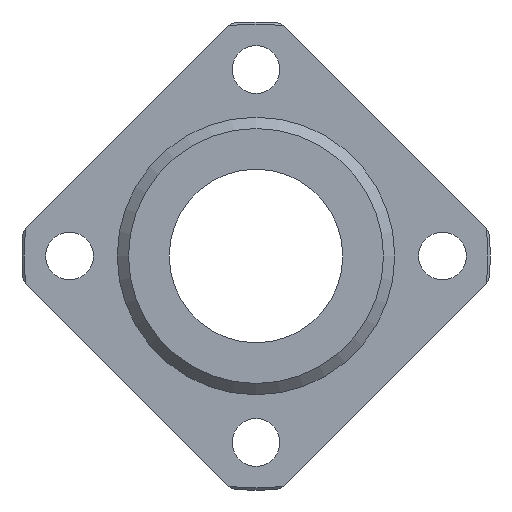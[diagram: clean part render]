
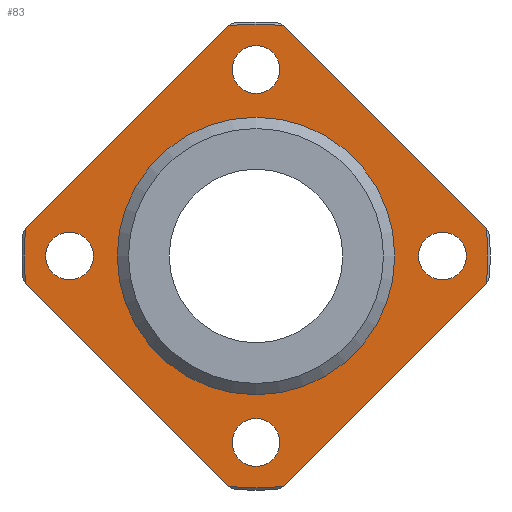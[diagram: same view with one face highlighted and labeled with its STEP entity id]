
A CAD part, left-side view. The second image highlights one B-rep face of the part: STEP entity #83.
In plain terms, the highlighted planar face has unit normal (-1, 0, 0).
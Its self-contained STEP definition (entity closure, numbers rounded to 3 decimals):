
#83=ADVANCED_FACE('',(#131,#132,#133,#134,#135,#136),#137,.F.);
#131=FACE_BOUND('',#234,.T.);
#132=FACE_BOUND('',#235,.T.);
#133=FACE_BOUND('',#236,.T.);
#134=FACE_BOUND('',#237,.T.);
#135=FACE_BOUND('',#238,.T.);
#136=FACE_OUTER_BOUND('',#239,.T.);
#137=PLANE('',#240);
#234=EDGE_LOOP('',(#383));
#235=EDGE_LOOP('',(#384));
#236=EDGE_LOOP('',(#385));
#237=EDGE_LOOP('',(#386));
#238=EDGE_LOOP('',(#387));
#239=EDGE_LOOP('',(#388,#389,#390,#391,#392,#393,#394,#395));
#240=AXIS2_PLACEMENT_3D('',#396,#397,#398);
#383=ORIENTED_EDGE('',*,*,#609,.T.);
#384=ORIENTED_EDGE('',*,*,#610,.T.);
#385=ORIENTED_EDGE('',*,*,#608,.T.);
#386=ORIENTED_EDGE('',*,*,#611,.T.);
#387=ORIENTED_EDGE('',*,*,#612,.T.);
#388=ORIENTED_EDGE('',*,*,#613,.T.);
#389=ORIENTED_EDGE('',*,*,#614,.T.);
#390=ORIENTED_EDGE('',*,*,#615,.T.);
#391=ORIENTED_EDGE('',*,*,#587,.T.);
#392=ORIENTED_EDGE('',*,*,#616,.T.);
#393=ORIENTED_EDGE('',*,*,#595,.T.);
#394=ORIENTED_EDGE('',*,*,#617,.T.);
#395=ORIENTED_EDGE('',*,*,#576,.T.);
#396=CARTESIAN_POINT('',(-11.0,26.746,0.0));
#397=DIRECTION('',(1.0,0.0,0.0));
#398=DIRECTION('',(0.0,0.0,-1.0));
#576=EDGE_CURVE('',#651,#649,#652,.T.);
#587=EDGE_CURVE('',#672,#670,#673,.T.);
#595=EDGE_CURVE('',#688,#686,#689,.T.);
#608=EDGE_CURVE('',#710,#710,#711,.T.);
#609=EDGE_CURVE('',#712,#712,#713,.T.);
#610=EDGE_CURVE('',#714,#714,#715,.T.);
#611=EDGE_CURVE('',#716,#716,#717,.T.);
#612=EDGE_CURVE('',#718,#718,#719,.T.);
#613=EDGE_CURVE('',#649,#720,#721,.T.);
#614=EDGE_CURVE('',#720,#722,#723,.T.);
#615=EDGE_CURVE('',#722,#672,#724,.T.);
#616=EDGE_CURVE('',#670,#688,#725,.T.);
#617=EDGE_CURVE('',#686,#651,#726,.T.);
#649=VERTEX_POINT('',#778);
#651=VERTEX_POINT('',#783);
#652=LINE('',#784,#785);
#670=VERTEX_POINT('',#818);
#672=VERTEX_POINT('',#823);
#673=LINE('',#824,#825);
#686=VERTEX_POINT('',#850);
#688=VERTEX_POINT('',#855);
#689=LINE('',#856,#857);
#710=VERTEX_POINT('',#892);
#711=CIRCLE('',#893,2.75);
#712=VERTEX_POINT('',#894);
#713=CIRCLE('',#895,16.0);
#714=VERTEX_POINT('',#896);
#715=CIRCLE('',#897,2.75);
#716=VERTEX_POINT('',#898);
#717=CIRCLE('',#899,2.75);
#718=VERTEX_POINT('',#900);
#719=CIRCLE('',#901,2.75);
#720=VERTEX_POINT('',#902);
#721=CIRCLE('',#903,26.746);
#722=VERTEX_POINT('',#904);
#723=LINE('',#905,#906);
#724=CIRCLE('',#907,26.746);
#725=CIRCLE('',#908,26.746);
#726=CIRCLE('',#909,26.746);
#778=CARTESIAN_POINT('',(-11.0,-3.137,26.561));
#783=CARTESIAN_POINT('',(-11.0,-26.561,3.137));
#784=CARTESIAN_POINT('',(-11.0,-1.476,28.222));
#785=VECTOR('',#967,1.0);
#818=CARTESIAN_POINT('',(-11.0,3.137,-26.561));
#823=CARTESIAN_POINT('',(-11.0,26.561,-3.137));
#824=CARTESIAN_POINT('',(-11.0,28.222,-1.476));
#825=VECTOR('',#977,1.0);
#850=CARTESIAN_POINT('',(-11.0,-26.561,-3.137));
#855=CARTESIAN_POINT('',(-11.0,-3.137,-26.561));
#856=CARTESIAN_POINT('',(-11.0,-1.476,-28.222));
#857=VECTOR('',#981,1.0);
#892=CARTESIAN_POINT('',(-11.0,21.5,-2.75));
#893=AXIS2_PLACEMENT_3D('',#1002,#1003,#1004);
#894=CARTESIAN_POINT('',(-11.0,0.0,-16.0));
#895=AXIS2_PLACEMENT_3D('',#1005,#1006,#1007);
#896=CARTESIAN_POINT('',(-11.0,0.0,-24.25));
#897=AXIS2_PLACEMENT_3D('',#1008,#1009,#1010);
#898=CARTESIAN_POINT('',(-11.0,-21.5,-2.75));
#899=AXIS2_PLACEMENT_3D('',#1011,#1012,#1013);
#900=CARTESIAN_POINT('',(-11.0,0.0,18.75));
#901=AXIS2_PLACEMENT_3D('',#1014,#1015,#1016);
#902=CARTESIAN_POINT('',(-11.0,3.137,26.561));
#903=AXIS2_PLACEMENT_3D('',#1017,#1018,#1019);
#904=CARTESIAN_POINT('',(-11.0,26.561,3.137));
#905=CARTESIAN_POINT('',(-11.0,28.222,1.476));
#906=VECTOR('',#1020,1.0);
#907=AXIS2_PLACEMENT_3D('',#1021,#1022,#1023);
#908=AXIS2_PLACEMENT_3D('',#1024,#1025,#1026);
#909=AXIS2_PLACEMENT_3D('',#1027,#1028,#1029);
#967=DIRECTION('',(0.0,0.707,0.707));
#977=DIRECTION('',(0.0,-0.707,-0.707));
#981=DIRECTION('',(0.0,-0.707,0.707));
#1002=CARTESIAN_POINT('',(-11.0,21.5,0.0));
#1003=DIRECTION('',(1.0,0.0,0.0));
#1004=DIRECTION('',(0.0,0.0,-1.0));
#1005=CARTESIAN_POINT('',(-11.0,0.0,0.0));
#1006=DIRECTION('',(1.0,0.0,0.0));
#1007=DIRECTION('',(0.0,0.0,-1.0));
#1008=CARTESIAN_POINT('',(-11.0,0.0,-21.5));
#1009=DIRECTION('',(1.0,0.0,0.0));
#1010=DIRECTION('',(0.0,0.0,-1.0));
#1011=CARTESIAN_POINT('',(-11.0,-21.5,0.0));
#1012=DIRECTION('',(1.0,0.0,0.0));
#1013=DIRECTION('',(0.0,0.0,-1.0));
#1014=CARTESIAN_POINT('',(-11.0,0.0,21.5));
#1015=DIRECTION('',(1.0,0.0,0.0));
#1016=DIRECTION('',(0.0,0.0,-1.0));
#1017=CARTESIAN_POINT('',(-11.0,0.0,0.0));
#1018=DIRECTION('',(-1.0,0.0,0.0));
#1019=DIRECTION('',(0.0,0.0,1.0));
#1020=DIRECTION('',(0.0,0.707,-0.707));
#1021=CARTESIAN_POINT('',(-11.0,0.0,0.0));
#1022=DIRECTION('',(-1.0,0.0,0.0));
#1023=DIRECTION('',(0.0,0.0,1.0));
#1024=CARTESIAN_POINT('',(-11.0,0.0,0.0));
#1025=DIRECTION('',(-1.0,0.0,0.0));
#1026=DIRECTION('',(0.0,0.0,1.0));
#1027=CARTESIAN_POINT('',(-11.0,0.0,0.0));
#1028=DIRECTION('',(-1.0,0.0,0.0));
#1029=DIRECTION('',(0.0,0.0,1.0));
